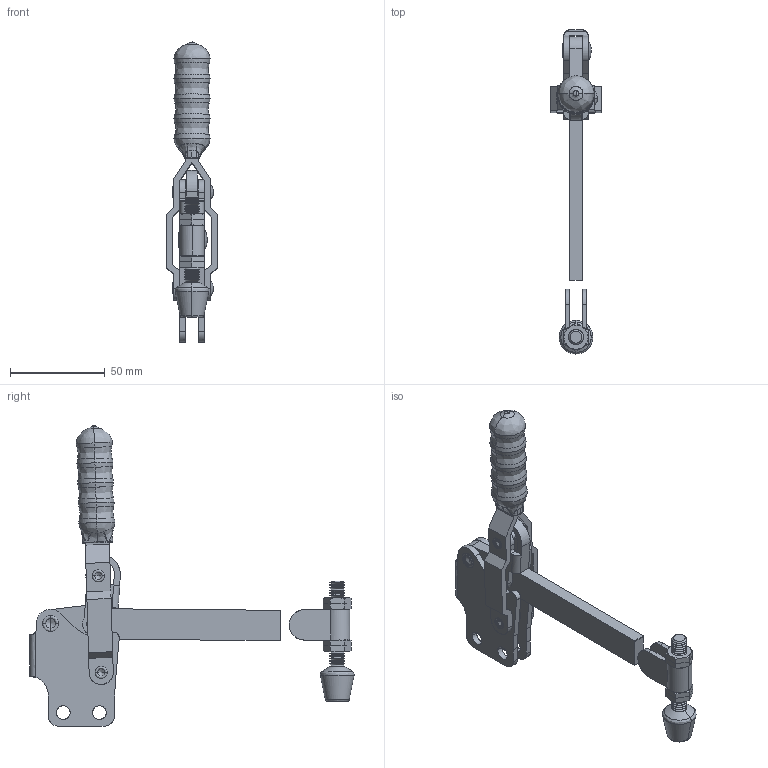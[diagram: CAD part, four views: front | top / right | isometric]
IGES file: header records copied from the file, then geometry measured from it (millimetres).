
Start section: 3D InterOp IGES (Version 17 0 1), Spatial Corp. Copyright (c) 1999-2007.
Global section: file name: NoName; native system: Spatial Corp.; preprocessor: 3D InterOp ACIS/IGES; author: Noname; organization: Noname; date: 20120122.101604; units: millimetre
Bounding box: 26.8 x 170.63 x 158.08 mm (x, y, z)
Surface area: 38629 mm2 (no closed solid volume)
Topology: 0 solids, 0 shells, 604 faces, 7146 edges, 7108 vertices
Faces by surface type: bspline 604
